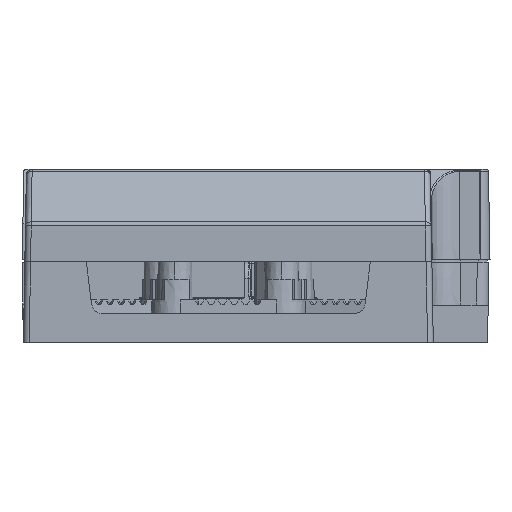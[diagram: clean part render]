
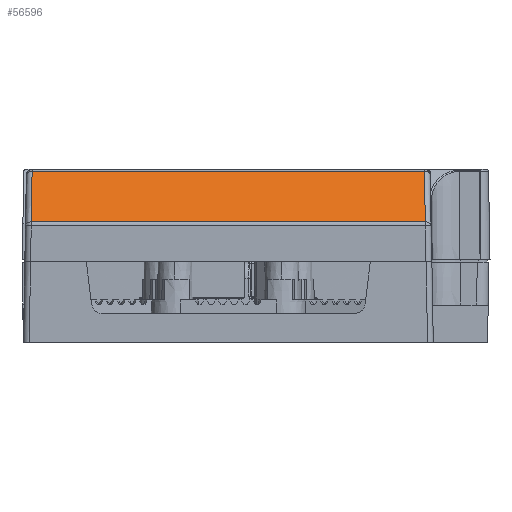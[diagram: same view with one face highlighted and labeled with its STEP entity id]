
A CAD part, front view. The second image highlights one B-rep face of the part: STEP entity #56596.
In plain terms, the highlighted planar face has unit normal (0, -0.707, 0.707) as drawn and (0.707, 0, -0.707) by its records, which use the part's own axes.
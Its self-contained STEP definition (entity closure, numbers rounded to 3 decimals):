
#806 = CARTESIAN_POINT ( 'NONE',  ( 27.26, -29.8, -3.45 ) ) ;
#2194 = LINE ( 'NONE', #47564, #60635 ) ;
#4402 = VERTEX_POINT ( 'NONE', #22860 ) ;
#6512 = ORIENTED_EDGE ( 'NONE', *, *, #57646, .T. ) ;
#8076 = FACE_OUTER_BOUND ( 'NONE', #11663, .T. ) ;
#10237 = VECTOR ( 'NONE', #54453, 1000. ) ;
#11292 = AXIS2_PLACEMENT_3D ( 'NONE', #806, #57497, #23518 ) ;
#11663 = EDGE_LOOP ( 'NONE', ( #6512, #58810, #64142, #50666 ) ) ;
#12039 = LINE ( 'NONE', #43040, #10237 ) ;
#17845 = PLANE ( 'NONE',  #11292 ) ;
#18523 = EDGE_CURVE ( 'NONE', #54817, #4402, #2194, .T. ) ;
#18733 = CARTESIAN_POINT ( 'NONE',  ( 26.859, 39.592, -3.851 ) ) ;
#22595 = CARTESIAN_POINT ( 'NONE',  ( 26.859, -28.692, -3.851 ) ) ;
#22860 = CARTESIAN_POINT ( 'NONE',  ( 18.053, -28.538, -12.657 ) ) ;
#23269 = DIRECTION ( 'NONE',  ( 0.707, 0.012, 0.707 ) ) ;
#23284 = VERTEX_POINT ( 'NONE', #22595 ) ;
#23518 = DIRECTION ( 'NONE',  ( -0.707, 0., -0.707 ) ) ;
#25240 = VECTOR ( 'NONE', #66359, 1000. ) ;
#26715 = CARTESIAN_POINT ( 'NONE',  ( 26.859, -29.8, -3.851 ) ) ;
#31708 = VECTOR ( 'NONE', #23269, 1000. ) ;
#35660 = EDGE_CURVE ( 'NONE', #54817, #70033, #61775, .T. ) ;
#43040 = CARTESIAN_POINT ( 'NONE',  ( 26.859, -28.692, -3.851 ) ) ;
#45843 = EDGE_CURVE ( 'NONE', #23284, #4402, #12039, .T. ) ;
#47564 = CARTESIAN_POINT ( 'NONE',  ( 18.053, 40.555, -12.657 ) ) ;
#50666 = ORIENTED_EDGE ( 'NONE', *, *, #35660, .T. ) ;
#54453 = DIRECTION ( 'NONE',  ( -0.707, 0.012, -0.707 ) ) ;
#54817 = VERTEX_POINT ( 'NONE', #57234 ) ;
#56596 = ADVANCED_FACE ( 'NONE', ( #8076 ), #17845, .T. ) ;
#57234 = CARTESIAN_POINT ( 'NONE',  ( 18.053, 39.438, -12.657 ) ) ;
#57256 = CARTESIAN_POINT ( 'NONE',  ( 18.053, 39.438, -12.657 ) ) ;
#57497 = DIRECTION ( 'NONE',  ( 0.707, 0., -0.707 ) ) ;
#57646 = EDGE_CURVE ( 'NONE', #70033, #23284, #68658, .T. ) ;
#58810 = ORIENTED_EDGE ( 'NONE', *, *, #45843, .T. ) ;
#58949 = DIRECTION ( 'NONE',  ( 0., -1., 0. ) ) ;
#60635 = VECTOR ( 'NONE', #58949, 1000. ) ;
#61775 = LINE ( 'NONE', #57256, #31708 ) ;
#64142 = ORIENTED_EDGE ( 'NONE', *, *, #18523, .F. ) ;
#66359 = DIRECTION ( 'NONE',  ( 0., -1., 0. ) ) ;
#68658 = LINE ( 'NONE', #26715, #25240 ) ;
#70033 = VERTEX_POINT ( 'NONE', #18733 ) ;
